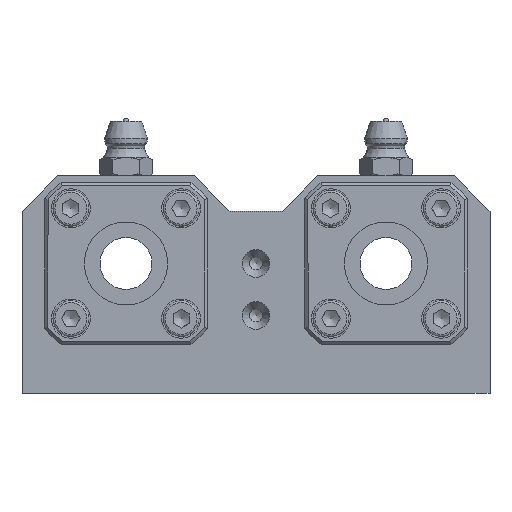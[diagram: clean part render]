
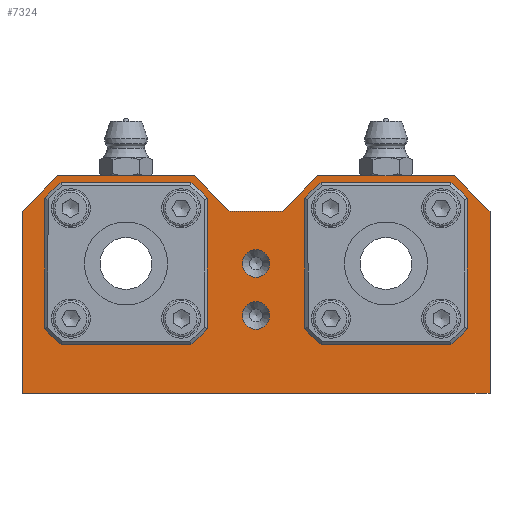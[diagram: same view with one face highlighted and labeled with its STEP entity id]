
A CAD part, left-side view. The second image highlights one B-rep face of the part: STEP entity #7324.
In plain terms, the highlighted planar face has unit normal (-1, 0, 0).
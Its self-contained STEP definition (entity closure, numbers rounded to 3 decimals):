
#6795=CARTESIAN_POINT('',(0.0,-36.0,0.0));
#6796=VERTEX_POINT('',#6795);
#6803=CARTESIAN_POINT('',(0.0,36.0,0.0));
#6804=VERTEX_POINT('',#6803);
#6805=CARTESIAN_POINT('',(0.0,36.0,0.0));
#6806=DIRECTION('',(0.0,-1.0,0.0));
#6807=VECTOR('',#6806,72.0);
#6808=LINE('',#6805,#6807);
#6809=EDGE_CURVE('',#6804,#6796,#6808,.T.);
#6864=CARTESIAN_POINT('',(0.0,-36.0,28.));
#6865=VERTEX_POINT('',#6864);
#6872=CARTESIAN_POINT('',(0.0,-36.0,0.0));
#6873=DIRECTION('',(0.0,0.0,1.0));
#6874=VECTOR('',#6873,28.);
#6875=LINE('',#6872,#6874);
#6876=EDGE_CURVE('',#6796,#6865,#6875,.T.);
#7105=CARTESIAN_POINT('',(0.0,9.5,33.5));
#7106=VERTEX_POINT('',#7105);
#7113=CARTESIAN_POINT('',(0.0,4.,28.));
#7114=VERTEX_POINT('',#7113);
#7115=CARTESIAN_POINT('',(0.0,9.5,33.5));
#7116=DIRECTION('',(0.0,-0.707,-0.707));
#7117=VECTOR('',#7116,7.778);
#7118=LINE('',#7115,#7117);
#7119=EDGE_CURVE('',#7106,#7114,#7118,.T.);
#7130=CARTESIAN_POINT('',(0.0,-36.0,0.0));
#7131=DIRECTION('',(-1.0,0.0,0.0));
#7132=DIRECTION('',(0.0,0.0,1.0));
#7133=AXIS2_PLACEMENT_3D('',#7130,#7131,#7132);
#7134=PLANE('',#7133);
#7135=ORIENTED_EDGE('',*,*,#7119,.F.);
#7136=CARTESIAN_POINT('',(0.0,30.5,33.5));
#7137=VERTEX_POINT('',#7136);
#7138=CARTESIAN_POINT('',(0.0,9.5,33.5));
#7139=DIRECTION('',(0.0,1.0,0.0));
#7140=VECTOR('',#7139,21.);
#7141=LINE('',#7138,#7140);
#7142=EDGE_CURVE('',#7106,#7137,#7141,.T.);
#7143=ORIENTED_EDGE('',*,*,#7142,.T.);
#7144=CARTESIAN_POINT('',(0.0,36.0,28.));
#7145=VERTEX_POINT('',#7144);
#7146=CARTESIAN_POINT('',(0.0,36.0,28.));
#7147=DIRECTION('',(0.0,-0.707,0.707));
#7148=VECTOR('',#7147,7.778);
#7149=LINE('',#7146,#7148);
#7150=EDGE_CURVE('',#7145,#7137,#7149,.T.);
#7151=ORIENTED_EDGE('',*,*,#7150,.F.);
#7152=CARTESIAN_POINT('',(0.0,36.0,0.0));
#7153=DIRECTION('',(0.0,0.0,1.0));
#7154=VECTOR('',#7153,28.);
#7155=LINE('',#7152,#7154);
#7156=EDGE_CURVE('',#6804,#7145,#7155,.T.);
#7157=ORIENTED_EDGE('',*,*,#7156,.F.);
#7158=ORIENTED_EDGE('',*,*,#6809,.T.);
#7159=ORIENTED_EDGE('',*,*,#6876,.T.);
#7160=CARTESIAN_POINT('',(0.0,-30.5,33.5));
#7161=VERTEX_POINT('',#7160);
#7162=CARTESIAN_POINT('',(0.0,-30.5,33.5));
#7163=DIRECTION('',(0.0,-0.707,-0.707));
#7164=VECTOR('',#7163,7.778);
#7165=LINE('',#7162,#7164);
#7166=EDGE_CURVE('',#7161,#6865,#7165,.T.);
#7167=ORIENTED_EDGE('',*,*,#7166,.F.);
#7168=CARTESIAN_POINT('',(0.0,-9.5,33.5));
#7169=VERTEX_POINT('',#7168);
#7170=CARTESIAN_POINT('',(0.0,-30.5,33.5));
#7171=DIRECTION('',(0.0,1.0,0.0));
#7172=VECTOR('',#7171,21.);
#7173=LINE('',#7170,#7172);
#7174=EDGE_CURVE('',#7161,#7169,#7173,.T.);
#7175=ORIENTED_EDGE('',*,*,#7174,.T.);
#7176=CARTESIAN_POINT('',(0.0,-4.,28.));
#7177=VERTEX_POINT('',#7176);
#7178=CARTESIAN_POINT('',(0.0,-4.,28.));
#7179=DIRECTION('',(0.0,-0.707,0.707));
#7180=VECTOR('',#7179,7.778);
#7181=LINE('',#7178,#7180);
#7182=EDGE_CURVE('',#7177,#7169,#7181,.T.);
#7183=ORIENTED_EDGE('',*,*,#7182,.F.);
#7184=CARTESIAN_POINT('',(0.0,-4.,28.));
#7185=DIRECTION('',(0.0,1.0,0.0));
#7186=VECTOR('',#7185,8.);
#7187=LINE('',#7184,#7186);
#7188=EDGE_CURVE('',#7177,#7114,#7187,.T.);
#7189=ORIENTED_EDGE('',*,*,#7188,.T.);
#7190=EDGE_LOOP('',(#7135,#7143,#7151,#7157,#7158,#7159,#7167,#7175,#7183,#7189));
#7191=FACE_OUTER_BOUND('',#7190,.T.);
#7192=CARTESIAN_POINT('',(0.0,11.515,26.985));
#7193=VERTEX_POINT('',#7192);
#7194=CARTESIAN_POINT('',(0.0,11.515,28.485));
#7195=DIRECTION('',(1.0,0.0,0.0));
#7196=DIRECTION('',(0.0,0.0,-1.0));
#7197=AXIS2_PLACEMENT_3D('',#7194,#7195,#7196);
#7198=CIRCLE('',#7197,1.5);
#7199=EDGE_CURVE('',#7193,#7193,#7198,.T.);
#7200=ORIENTED_EDGE('',*,*,#7199,.T.);
#7201=EDGE_LOOP('',(#7200));
#7202=FACE_BOUND('',#7201,.T.);
#7203=CARTESIAN_POINT('',(0.0,13.015,11.515));
#7204=VERTEX_POINT('',#7203);
#7205=CARTESIAN_POINT('',(0.0,11.515,11.515));
#7206=DIRECTION('',(1.0,0.0,0.0));
#7207=DIRECTION('',(0.0,1.0,0.0));
#7208=AXIS2_PLACEMENT_3D('',#7205,#7206,#7207);
#7209=CIRCLE('',#7208,1.5);
#7210=EDGE_CURVE('',#7204,#7204,#7209,.T.);
#7211=ORIENTED_EDGE('',*,*,#7210,.T.);
#7212=EDGE_LOOP('',(#7211));
#7213=FACE_BOUND('',#7212,.T.);
#7214=CARTESIAN_POINT('',(0.0,28.485,13.015));
#7215=VERTEX_POINT('',#7214);
#7216=CARTESIAN_POINT('',(0.0,28.485,11.515));
#7217=DIRECTION('',(1.0,0.0,0.0));
#7218=DIRECTION('',(0.0,0.0,1.0));
#7219=AXIS2_PLACEMENT_3D('',#7216,#7217,#7218);
#7220=CIRCLE('',#7219,1.5);
#7221=EDGE_CURVE('',#7215,#7215,#7220,.T.);
#7222=ORIENTED_EDGE('',*,*,#7221,.T.);
#7223=EDGE_LOOP('',(#7222));
#7224=FACE_BOUND('',#7223,.T.);
#7225=CARTESIAN_POINT('',(0.0,12.5,20.));
#7226=VERTEX_POINT('',#7225);
#7227=CARTESIAN_POINT('',(0.0,20.0,20.));
#7228=DIRECTION('',(1.0,0.0,0.0));
#7229=DIRECTION('',(0.0,1.0,0.0));
#7230=AXIS2_PLACEMENT_3D('',#7227,#7228,#7229);
#7231=CIRCLE('',#7230,7.5);
#7232=EDGE_CURVE('',#7226,#7226,#7231,.T.);
#7233=ORIENTED_EDGE('',*,*,#7232,.T.);
#7234=EDGE_LOOP('',(#7233));
#7235=FACE_BOUND('',#7234,.T.);
#7236=CARTESIAN_POINT('',(0.0,26.985,28.485));
#7237=VERTEX_POINT('',#7236);
#7238=CARTESIAN_POINT('',(0.0,28.485,28.485));
#7239=DIRECTION('',(1.0,0.0,0.0));
#7240=DIRECTION('',(0.0,-1.0,0.0));
#7241=AXIS2_PLACEMENT_3D('',#7238,#7239,#7240);
#7242=CIRCLE('',#7241,1.5);
#7243=EDGE_CURVE('',#7237,#7237,#7242,.T.);
#7244=ORIENTED_EDGE('',*,*,#7243,.T.);
#7245=EDGE_LOOP('',(#7244));
#7246=FACE_BOUND('',#7245,.T.);
#7247=CARTESIAN_POINT('',(0.0,2.125,20.0));
#7248=VERTEX_POINT('',#7247);
#7249=CARTESIAN_POINT('',(0.0,0.,20.0));
#7250=DIRECTION('',(1.0,0.0,0.0));
#7251=DIRECTION('',(0.0,1.0,0.0));
#7252=AXIS2_PLACEMENT_3D('',#7249,#7250,#7251);
#7253=CIRCLE('',#7252,2.125);
#7254=EDGE_CURVE('',#7248,#7248,#7253,.T.);
#7255=ORIENTED_EDGE('',*,*,#7254,.T.);
#7256=EDGE_LOOP('',(#7255));
#7257=FACE_BOUND('',#7256,.T.);
#7258=CARTESIAN_POINT('',(0.0,2.125,12.));
#7259=VERTEX_POINT('',#7258);
#7260=CARTESIAN_POINT('',(0.0,0.,12.));
#7261=DIRECTION('',(1.0,0.0,0.0));
#7262=DIRECTION('',(0.0,1.0,0.0));
#7263=AXIS2_PLACEMENT_3D('',#7260,#7261,#7262);
#7264=CIRCLE('',#7263,2.125);
#7265=EDGE_CURVE('',#7259,#7259,#7264,.T.);
#7266=ORIENTED_EDGE('',*,*,#7265,.T.);
#7267=EDGE_LOOP('',(#7266));
#7268=FACE_BOUND('',#7267,.T.);
#7269=CARTESIAN_POINT('',(0.0,-11.515,26.985));
#7270=VERTEX_POINT('',#7269);
#7271=CARTESIAN_POINT('',(0.0,-11.515,28.485));
#7272=DIRECTION('',(1.0,0.0,0.0));
#7273=DIRECTION('',(0.0,0.0,-1.0));
#7274=AXIS2_PLACEMENT_3D('',#7271,#7272,#7273);
#7275=CIRCLE('',#7274,1.5);
#7276=EDGE_CURVE('',#7270,#7270,#7275,.T.);
#7277=ORIENTED_EDGE('',*,*,#7276,.T.);
#7278=EDGE_LOOP('',(#7277));
#7279=FACE_BOUND('',#7278,.T.);
#7280=CARTESIAN_POINT('',(0.0,-13.015,11.515));
#7281=VERTEX_POINT('',#7280);
#7282=CARTESIAN_POINT('',(0.0,-11.515,11.515));
#7283=DIRECTION('',(1.0,0.0,0.0));
#7284=DIRECTION('',(0.0,-1.0,0.0));
#7285=AXIS2_PLACEMENT_3D('',#7282,#7283,#7284);
#7286=CIRCLE('',#7285,1.5);
#7287=EDGE_CURVE('',#7281,#7281,#7286,.T.);
#7288=ORIENTED_EDGE('',*,*,#7287,.T.);
#7289=EDGE_LOOP('',(#7288));
#7290=FACE_BOUND('',#7289,.T.);
#7291=CARTESIAN_POINT('',(0.0,-28.485,13.015));
#7292=VERTEX_POINT('',#7291);
#7293=CARTESIAN_POINT('',(0.0,-28.485,11.515));
#7294=DIRECTION('',(1.0,0.0,0.0));
#7295=DIRECTION('',(0.0,0.0,1.0));
#7296=AXIS2_PLACEMENT_3D('',#7293,#7294,#7295);
#7297=CIRCLE('',#7296,1.5);
#7298=EDGE_CURVE('',#7292,#7292,#7297,.T.);
#7299=ORIENTED_EDGE('',*,*,#7298,.T.);
#7300=EDGE_LOOP('',(#7299));
#7301=FACE_BOUND('',#7300,.T.);
#7302=CARTESIAN_POINT('',(0.0,-26.985,28.485));
#7303=VERTEX_POINT('',#7302);
#7304=CARTESIAN_POINT('',(0.0,-28.485,28.485));
#7305=DIRECTION('',(1.0,0.0,0.0));
#7306=DIRECTION('',(0.0,1.0,0.0));
#7307=AXIS2_PLACEMENT_3D('',#7304,#7305,#7306);
#7308=CIRCLE('',#7307,1.5);
#7309=EDGE_CURVE('',#7303,#7303,#7308,.T.);
#7310=ORIENTED_EDGE('',*,*,#7309,.T.);
#7311=EDGE_LOOP('',(#7310));
#7312=FACE_BOUND('',#7311,.T.);
#7313=CARTESIAN_POINT('',(0.0,-12.5,20.));
#7314=VERTEX_POINT('',#7313);
#7315=CARTESIAN_POINT('',(0.0,-20.0,20.));
#7316=DIRECTION('',(1.0,0.0,0.0));
#7317=DIRECTION('',(0.0,-1.0,0.0));
#7318=AXIS2_PLACEMENT_3D('',#7315,#7316,#7317);
#7319=CIRCLE('',#7318,7.5);
#7320=EDGE_CURVE('',#7314,#7314,#7319,.T.);
#7321=ORIENTED_EDGE('',*,*,#7320,.T.);
#7322=EDGE_LOOP('',(#7321));
#7323=FACE_BOUND('',#7322,.T.);
#7324=ADVANCED_FACE('',(#7191,#7202,#7213,#7224,#7235,#7246,#7257,#7268,#7279,#7290,#7301,#7312,#7323),#7134,.T.);
